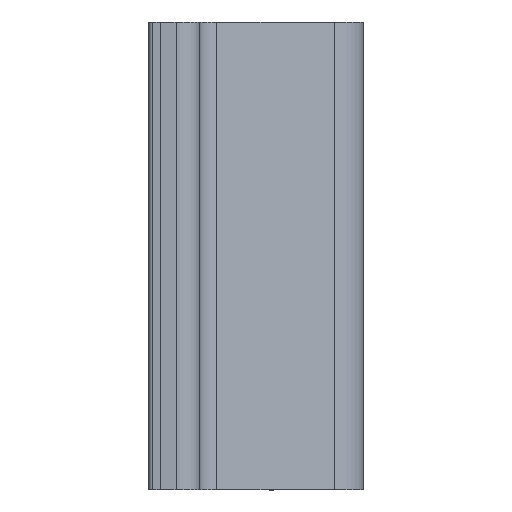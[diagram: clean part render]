
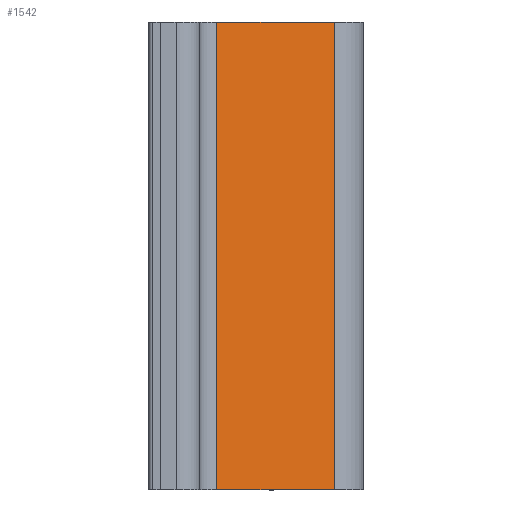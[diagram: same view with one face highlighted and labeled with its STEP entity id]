
A CAD part, front view. The second image highlights one B-rep face of the part: STEP entity #1542.
In plain terms, the highlighted planar face has unit normal (0.259, -0.966, 0).
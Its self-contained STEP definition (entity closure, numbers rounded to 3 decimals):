
#40 = CARTESIAN_POINT ( 'NONE',  ( -1539.856, -140.499, -192.8 ) ) ;
#172 = ORIENTED_EDGE ( 'NONE', *, *, #1636, .F. ) ;
#194 = EDGE_CURVE ( 'NONE', #1203, #1087, #688, .T. ) ;
#349 = FACE_OUTER_BOUND ( 'NONE', #1342, .T. ) ;
#353 = VECTOR ( 'NONE', #1319, 1000. ) ;
#398 = VECTOR ( 'NONE', #1122, 1000. ) ;
#437 = LINE ( 'NONE', #871, #398 ) ;
#523 = CARTESIAN_POINT ( 'NONE',  ( -1539.856, -140.499, -132.8 ) ) ;
#541 = DIRECTION ( 'NONE',  ( 0.966, 0.259, 0. ) ) ;
#662 = EDGE_CURVE ( 'NONE', #1036, #901, #855, .T. ) ;
#673 = CARTESIAN_POINT ( 'NONE',  ( -1554.926, -144.537, -130.8 ) ) ;
#678 = LINE ( 'NONE', #798, #353 ) ;
#688 = LINE ( 'NONE', #1032, #1605 ) ;
#798 = CARTESIAN_POINT ( 'NONE',  ( -1554.926, -144.537, -132.8 ) ) ;
#848 = AXIS2_PLACEMENT_3D ( 'NONE', #673, #1059, #541 ) ;
#855 = LINE ( 'NONE', #1273, #1513 ) ;
#871 = CARTESIAN_POINT ( 'NONE',  ( -1539.856, -140.499, -192.8 ) ) ;
#901 = VERTEX_POINT ( 'NONE', #40 ) ;
#1032 = CARTESIAN_POINT ( 'NONE',  ( -1554.926, -144.537, -130.8 ) ) ;
#1036 = VERTEX_POINT ( 'NONE', #523 ) ;
#1059 = DIRECTION ( 'NONE',  ( 0.259, -0.966, 0. ) ) ;
#1067 = PLANE ( 'NONE',  #848 ) ;
#1074 = CARTESIAN_POINT ( 'NONE',  ( -1554.926, -144.537, -192.8 ) ) ;
#1087 = VERTEX_POINT ( 'NONE', #1074 ) ;
#1122 = DIRECTION ( 'NONE',  ( -0.966, -0.259, 0. ) ) ;
#1144 = ORIENTED_EDGE ( 'NONE', *, *, #662, .F. ) ;
#1193 = ORIENTED_EDGE ( 'NONE', *, *, #1691, .F. ) ;
#1203 = VERTEX_POINT ( 'NONE', #1694 ) ;
#1217 = ORIENTED_EDGE ( 'NONE', *, *, #194, .T. ) ;
#1273 = CARTESIAN_POINT ( 'NONE',  ( -1539.856, -140.499, -130.8 ) ) ;
#1319 = DIRECTION ( 'NONE',  ( 0.966, 0.259, 0. ) ) ;
#1342 = EDGE_LOOP ( 'NONE', ( #1217, #1193, #1144, #172 ) ) ;
#1392 = DIRECTION ( 'NONE',  ( 0., 0., -1. ) ) ;
#1513 = VECTOR ( 'NONE', #1392, 1000. ) ;
#1542 = ADVANCED_FACE ( 'NONE', ( #349 ), #1067, .T. ) ;
#1558 = DIRECTION ( 'NONE',  ( 0., 0., -1. ) ) ;
#1605 = VECTOR ( 'NONE', #1558, 1000. ) ;
#1636 = EDGE_CURVE ( 'NONE', #1203, #1036, #678, .T. ) ;
#1691 = EDGE_CURVE ( 'NONE', #901, #1087, #437, .T. ) ;
#1694 = CARTESIAN_POINT ( 'NONE',  ( -1554.926, -144.537, -132.8 ) ) ;
